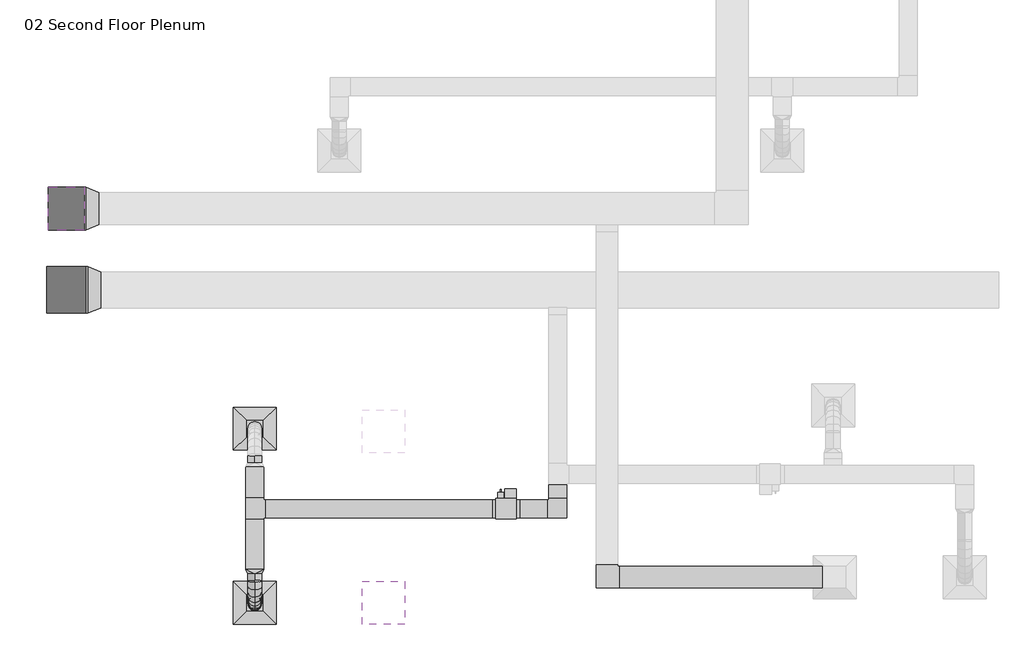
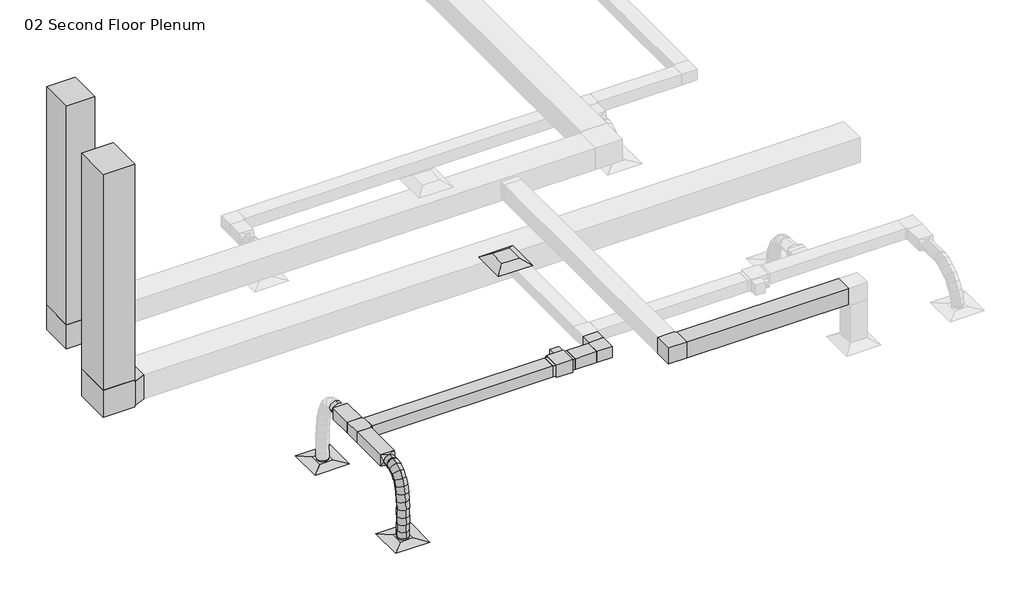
# One storey, part 1 of 12: 11 duct segments, 8 duct fittings, 3 air terminals, 1 proxy.
"""IFC4 building model written with IfcOpenShell, lengths in millimetres."""

from ifc_helpers import new_model, si_unit, point, frame, frame_2d, origin, place, context, project, spatial, polyline, circle_curve, ellipse_curve, trimmed, segment, composite_curve, outline, extrude, transform, mapped, element, save
from ifc_brep_helpers import plane_surface, cylinder_surface, advanced_brep
from components import exhaust_diffuser_hosted_workplane_based_exhaust_diffuser_7695a80a, supply_diffuser_rectangular_face_round_neck_d30_6390248a, supply_diffuser_rectangular_face_round_neck_d30_79c6f163, bcn6785_vav_d30_vav1_8c327968, rectangular_elbow_mitered_standard_f09b78ec, rectangular_elbow_mitered_standard_4ff1c4e8, rectangular_tee_standard_dbb21c28, rectangular_tee_standard_b2181136, rectangular_tee_standard_b316833c, rectangular_transition_angle_45_degree_4f42cd9e, rectangular_transition_angle_45_degree_104dd07f, rectangular_to_round_transition_angle_45_degree_e9430680

model = new_model("IFC4")

# Units and contexts
model_context = context("Model", 3, world=origin())
ifc_project = project(units=[si_unit("LENGTHUNIT", "METRE", prefix="MILLI")], contexts=[model_context])

# Site, building, storey
site = spatial("IfcSite", under=ifc_project)
building = spatial("IfcBuilding", under=site)
storey = spatial("IfcBuildingStorey", under=building, Name="02 Second Floor Plenum", Elevation=3048.0)

# Air terminals
placement = place(None, origin())
exhaust_diffuser_hosted_workplane_based_exhaust_diffuser_shape = exhaust_diffuser_hosted_workplane_based_exhaust_diffuser_7695a80a(model_context)
element("IfcAirTerminal", 1, ObjectType="Exhaust Diffuser - Hosted : Workplane-based Exhaust Diffuser", at=placement, inside=storey, context=model_context, shape_type="MappedRepresentation", body=[
    mapped(exhaust_diffuser_hosted_workplane_based_exhaust_diffuser_shape, transform((-12923.6292617, -5803.3078325, 7010.4), x_axis=(1.0, 0.0, 0.0), y_axis=(0.0, -1.0, 0.0), z_axis=(0.0, 0.0, -1.0))),
])
supply_diffuser_rectangular_face_round_neck_d30_shape = supply_diffuser_rectangular_face_round_neck_d30_6390248a(model_context)
element("IfcAirTerminal", 2, ObjectType="Supply Diffuser - Rectangular Face Round Neck : D30_SupplyDiffuser_24x24 8 Neck", at=placement, inside=storey, context=model_context, shape_type="MappedRepresentation", body=[
    mapped(supply_diffuser_rectangular_face_round_neck_d30_shape, transform((-14752.4292617, -5803.3078325, 2438.4), x_axis=(1.0, 0.0, 0.0), y_axis=(0.0, 1.0, 0.0), z_axis=(0.0, 0.0, 1.0))),
])
supply_diffuser_rectangular_face_round_neck_d30_2_shape = supply_diffuser_rectangular_face_round_neck_d30_79c6f163(model_context)
element("IfcAirTerminal", 3, ObjectType="Supply Diffuser - Rectangular Face Round Neck : D30_SupplyDiffuser_24x24 8 Neck", at=placement, inside=storey, context=model_context, shape_type="MappedRepresentation", body=[
    mapped(supply_diffuser_rectangular_face_round_neck_d30_2_shape, transform((-14752.4292617, -3326.8078325, 2406.65), x_axis=(1.0, 0.0, 0.0), y_axis=(0.0, 1.0, 0.0), z_axis=(0.0, 0.0, 1.0))),
])

# Proxy
bcn6785_vav_d30_vav1_shape = bcn6785_vav_d30_vav1_8c327968(model_context)
element("IfcBuildingElementProxy", 4, Name="BCN6785_VAV : D30_VAV1", ObjectType="BCN6785_VAV : D30_VAV1", at=placement, inside=storey, context=model_context, shape_type="MappedRepresentation", body=[
    mapped(bcn6785_vav_d30_vav1_shape, transform((-11037.5038818, -4465.0453325, 3536.95), x_axis=(-1.0, 0.0, 0.0), y_axis=(0.0, -1.0, 0.0), z_axis=(0.0, 0.0, 1.0))),
])

# Duct fittings
rectangular_elbow_mitered_standard_shape = rectangular_elbow_mitered_standard_f09b78ec(model_context)
element("IfcDuctFitting", 5, ObjectType="Rectangular Elbow - Mitered : Standard", at=placement, inside=storey, context=model_context, shape_type="MappedRepresentation", body=[
    mapped(rectangular_elbow_mitered_standard_shape, transform((-10449.2481813, -4465.0453325, 3657.6), x_axis=(1.0, 0.0, 0.0), y_axis=(0.0, 1.0, 0.0), z_axis=(0.0, 0.0, 1.0))),
])
rectangular_elbow_mitered_standard_2_shape = rectangular_elbow_mitered_standard_4ff1c4e8(model_context)
element("IfcDuctFitting", 6, ObjectType="Rectangular Elbow - Mitered : Standard", at=placement, inside=storey, context=model_context, shape_type="MappedRepresentation", body=[
    mapped(rectangular_elbow_mitered_standard_2_shape, transform((-9752.7160069, -5438.1828325, 4038.6), x_axis=(0.0, -1.0, 0.0), y_axis=(1.0, 0.0, 0.0), z_axis=(0.0, 0.0, 1.0))),
])
rectangular_tee_standard_shape = rectangular_tee_standard_dbb21c28(model_context)
element("IfcDuctFitting", 7, ObjectType="Rectangular Tee : Standard", at=placement, inside=storey, context=model_context, shape_type="MappedRepresentation", body=[
    mapped(rectangular_tee_standard_shape, transform((-17428.9542617, -1355.9265825, 3505.2), x_axis=(0.0, 0.0, -1.0), y_axis=(-1.0, 0.0, 0.0), z_axis=(0.0, 1.0, 0.0))),
])
rectangular_tee_standard_2_shape = rectangular_tee_standard_b2181136(model_context)
element("IfcDuctFitting", 8, ObjectType="Rectangular Tee : Standard", at=placement, inside=storey, context=model_context, shape_type="MappedRepresentation", body=[
    mapped(rectangular_tee_standard_2_shape, transform((-17428.9542617, -201.3156743, 4038.6), x_axis=(0.0, 0.0, -1.0), y_axis=(-1.0, 0.0, 0.0), z_axis=(0.0, 1.0, 0.0))),
])
rectangular_tee_standard_3_shape = rectangular_tee_standard_b316833c(model_context)
element("IfcDuctFitting", 9, ObjectType="Rectangular Tee : Standard", at=placement, inside=storey, context=model_context, shape_type="MappedRepresentation", body=[
    mapped(rectangular_tee_standard_3_shape, transform((-14752.2538818, -4465.0453325, 3657.6), x_axis=(0.0, 1.0, 0.0), y_axis=(-1.0, 0.0, 0.0), z_axis=(0.0, 0.0, 1.0))),
])
rectangular_transition_angle_45_degree_shape = rectangular_transition_angle_45_degree_4f42cd9e(model_context)
element("IfcDuctFitting", 10, ObjectType="Rectangular Transition - Angle : 45 Degree", at=placement, inside=storey, context=model_context, shape_type="MappedRepresentation", body=[
    mapped(rectangular_transition_angle_45_degree_shape, transform((-17124.1542617, -1355.9265825, 3505.2), x_axis=(1.0, 0.0, 0.0), y_axis=(0.0, 1.0, 0.0), z_axis=(0.0, 0.0, 1.0))),
])
rectangular_transition_angle_45_degree_2_shape = rectangular_transition_angle_45_degree_104dd07f(model_context)
element("IfcDuctFitting", 11, ObjectType="Rectangular Transition - Angle : 45 Degree", at=placement, inside=storey, context=model_context, shape_type="MappedRepresentation", body=[
    mapped(rectangular_transition_angle_45_degree_2_shape, transform((-17149.5542617, -201.3156743, 4038.6), x_axis=(1.0, 0.0, 0.0), y_axis=(0.0, 1.0, 0.0), z_axis=(0.0, 0.0, 1.0))),
])
rectangular_to_round_transition_angle_45_degree_shape = rectangular_to_round_transition_angle_45_degree_e9430680(model_context)
element("IfcDuctFitting", 12, ObjectType="Rectangular to Round Transition - Angle : 45 Degree", at=placement, inside=storey, context=model_context, shape_type="MappedRepresentation", body=[
    mapped(rectangular_to_round_transition_angle_45_degree_shape, transform((-14752.2538818, -5325.9690683, 3657.6), x_axis=(0.0, -1.0, 0.0), y_axis=(1.0, 0.0, 0.0), z_axis=(0.0, 0.0, 1.0))),
])

# Duct segments
element("IfcDuctSegment", 13, ObjectType="Flex - Round", at=placement, inside=storey, context=model_context, shape_type="AdvancedBrep", body=[
    advanced_brep(
    [(-14650.6538818, -5478.3690683, 3657.6), (-14752.2538818, -5478.3690683, 3556.0), (-14853.8538818, -5478.3690683, 3657.6), (-14752.2538818, -5478.3690683, 3759.2), (-14650.6538818, -5496.6935788, 3657.6), (-14752.2538818, -5485.3893855, 3556.0), (-14853.8538818, -5496.6884638, 3657.6), (-14752.2538818, -5507.9926572, 3759.2), (-14650.8292639, -5803.3286709, 2492.3712152), (-14752.450147, -5904.8994006, 2491.0662354), (-14854.0292595, -5803.2869942, 2492.3787848), (-14752.4083763, -5701.7162645, 2493.6837646), (-14650.6579668, -5576.831444, 3639.5481106), (-14752.2564828, -5536.4142073, 3544.5061271), (-14853.8579662, -5576.8134794, 3639.5510051), (-14752.2594502, -5617.2307161, 3734.5929886), (-14650.6691678, -5653.9379238, 3588.7607497), (-14752.2632578, -5583.052381, 3513.7871814), (-14853.8691653, -5653.9071217, 3588.7720998), (-14752.2750754, -5724.7926644, 3663.7456681), (-14650.6859031, -5712.2117413, 3510.2924421), (-14752.2747755, -5623.1582047, 3459.782892), (-14853.8858985, -5712.1738489, 3510.3133397), (-14752.2970261, -5801.2273855, 3560.8228898), (-14650.7065909, -5754.1771102, 3409.1975659), (-14752.2915531, -5657.1916463, 3377.7960859), (-14853.906585, -5754.1365349, 3409.2249266), (-14752.3216229, -5851.1219989, 3440.6264065), (-14650.7296502, -5782.3588265, 3290.5284588), (-14752.312061, -5682.2551943, 3272.2571313), (-14853.9296437, -5782.3174714, 3290.559103), (-14752.3472329, -5882.4211035, 3308.8304305), (-14650.7534998, -5799.2810485, 3159.3370513), (-14752.3343139, -5698.0445254, 3149.8485869), (-14853.9534932, -5799.2395872, 3159.3685188), (-14752.3726791, -5900.4761103, 3168.8569832), (-14650.7765587, -5807.4675687, 3020.6754081), (-14752.3564088, -5705.8888031, 3016.9837801), (-14853.9765522, -5807.4261775, 3020.7056893), (-14752.3967021, -5909.0049432, 3024.3973173), (-14650.7972456, -5809.4420322, 2879.5957894), (-14752.3765645, -5707.8125589, 2879.5273255), (-14853.9972396, -5809.4006848, 2879.6229344), (-14752.4179208, -5911.030158, 2879.6913983), (-14650.8139795, -5807.7280251, 2741.1506672), (-14752.3930776, -5706.1211638, 2742.9086345), (-14854.0139742, -5807.6866103, 2741.1723624), (-14752.4348761, -5909.2934715, 2739.4143951), (-14650.8251792, -5804.8490982, 2610.3928254), (-14752.4042755, -5703.2427021, 2612.1719207), (-14854.0251746, -5804.8074907, 2610.4057696), (-14752.4460784, -5906.4138868, 2608.6266743)],
    [
        (0, 1, circle_curve(frame((-14752.2538818, -5478.3690683, 3657.6), z_axis=(0.0, 1.0, 0.0), x_axis=(1.0, 0.0, 0.0)), 101.6)),
        (1, 2, circle_curve(frame((-14752.2538818, -5478.3690683, 3657.6), z_axis=(0.0, 1.0, 0.0), x_axis=(1.0, 0.0, 0.0)), 101.6)),
        (2, 3, circle_curve(frame((-14752.2538818, -5478.3690683, 3657.6), z_axis=(0.0, 1.0, 0.0), x_axis=(1.0, 0.0, 0.0)), 101.6)),
        (3, 0, circle_curve(frame((-14752.2538818, -5478.3690683, 3657.6), z_axis=(0.0, 1.0, 0.0), x_axis=(1.0, 0.0, 0.0)), 101.6)),
        (0, 4),
        (4, 5, ellipse_curve(frame((-14752.2538818, -5496.6910213, 3657.6), z_axis=(2.501801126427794e-05, 0.9938700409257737, 0.1105546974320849), x_axis=(-0.0002249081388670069, 0.11055470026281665, -0.9938700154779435)), 102.2266452, 101.6)),
        (5, 1),
        (5, 6, ellipse_curve(frame((-14752.2538818, -5496.6910213, 3657.6), z_axis=(2.501801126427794e-05, 0.9938700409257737, 0.1105546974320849), x_axis=(-0.0002249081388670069, 0.11055470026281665, -0.9938700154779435)), 102.2266452, 101.6)),
        (6, 2),
        (6, 7, ellipse_curve(frame((-14752.2538818, -5496.6910213, 3657.6), z_axis=(2.501801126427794e-05, 0.9938700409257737, 0.1105546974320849), x_axis=(-0.0002249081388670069, 0.11055470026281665, -0.9938700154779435)), 102.2266452, 101.6)),
        (7, 3),
        (7, 4, ellipse_curve(frame((-14752.2538818, -5496.6910213, 3657.6), z_axis=(2.501801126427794e-05, 0.9938700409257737, 0.1105546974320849), x_axis=(-0.0002249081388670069, 0.11055470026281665, -0.9938700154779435)), 102.2266452, 101.6)),
        (8, 9, circle_curve(frame((-14752.4292617, -5803.3078325, 2492.375), z_axis=(-3.46063637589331e-05, 0.012881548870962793, -0.999917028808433), x_axis=(0.9999999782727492, -0.00020510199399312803, -3.7251485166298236e-05)), 101.6)),
        (9, 10, circle_curve(frame((-14752.4292617, -5803.3078325, 2492.375), z_axis=(-3.46063637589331e-05, 0.012881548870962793, -0.999917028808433), x_axis=(0.9999999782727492, -0.00020510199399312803, -3.7251485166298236e-05)), 101.6)),
        (10, 11, circle_curve(frame((-14752.4292617, -5803.3078325, 2492.375), z_axis=(-3.46063637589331e-05, 0.012881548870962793, -0.999917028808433), x_axis=(0.9999999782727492, -0.00020510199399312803, -3.7251485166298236e-05)), 101.6)),
        (11, 8, circle_curve(frame((-14752.4292617, -5803.3078325, 2492.375), z_axis=(-3.46063637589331e-05, 0.012881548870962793, -0.999917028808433), x_axis=(0.9999999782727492, -0.00020510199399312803, -3.7251485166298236e-05)), 101.6)),
        (4, 12),
        (12, 13, ellipse_curve(frame((-14752.2579665, -5576.8224617, 3639.5495578), z_axis=(8.693369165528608e-05, 0.9202793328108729, 0.3912619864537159), x_axis=(-0.0001994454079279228, 0.3912619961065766, -0.9202793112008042)), 103.2767194, 101.6)),
        (13, 5),
        (13, 14, ellipse_curve(frame((-14752.2579665, -5576.8224617, 3639.5495578), z_axis=(8.693369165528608e-05, 0.9202793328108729, 0.3912619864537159), x_axis=(-0.0001994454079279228, 0.3912619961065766, -0.9202793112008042)), 103.2767194, 101.6)),
        (14, 6),
        (14, 15, ellipse_curve(frame((-14752.2579665, -5576.8224617, 3639.5495578), z_axis=(8.693369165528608e-05, 0.9202793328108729, 0.3912619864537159), x_axis=(-0.0001994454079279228, 0.3912619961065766, -0.9202793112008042)), 103.2767194, 101.6)),
        (15, 7),
        (15, 12, ellipse_curve(frame((-14752.2579665, -5576.8224617, 3639.5495578), z_axis=(8.693369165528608e-05, 0.9202793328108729, 0.3912619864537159), x_axis=(-0.0001994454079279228, 0.3912619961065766, -0.9202793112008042)), 103.2767194, 101.6)),
        (12, 16),
        (16, 17, ellipse_curve(frame((-14752.2691666, -5653.9225227, 3588.7664248), z_axis=(0.00014853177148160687, 0.7267401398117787, 0.6869124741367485), x_axis=(-0.00014349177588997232, 0.6869124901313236, -0.726740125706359)), 103.1720115, 101.6)),
        (17, 13),
        (17, 18, ellipse_curve(frame((-14752.2691666, -5653.9225227, 3588.7664248), z_axis=(0.00014853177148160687, 0.7267401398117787, 0.6869124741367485), x_axis=(-0.00014349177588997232, 0.6869124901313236, -0.726740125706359)), 103.1720115, 101.6)),
        (18, 14),
        (18, 19, ellipse_curve(frame((-14752.2691666, -5653.9225227, 3588.7664248), z_axis=(0.00014853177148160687, 0.7267401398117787, 0.6869124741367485), x_axis=(-0.00014349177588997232, 0.6869124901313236, -0.726740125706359)), 103.1720115, 101.6)),
        (19, 15),
        (19, 16, ellipse_curve(frame((-14752.2691666, -5653.9225227, 3588.7664248), z_axis=(0.00014853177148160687, 0.7267401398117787, 0.6869124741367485), x_axis=(-0.00014349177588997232, 0.6869124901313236, -0.726740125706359)), 103.1720115, 101.6)),
        (16, 20),
        (20, 21, ellipse_curve(frame((-14752.2859008, -5712.1927951, 3510.3028909), z_axis=(0.00018147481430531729, 0.49350835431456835, 0.869741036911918), x_axis=(-7.265698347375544e-05, 0.8697410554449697, -0.49350834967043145)), 102.3690808, 101.6)),
        (21, 17),
        (21, 22, ellipse_curve(frame((-14752.2859008, -5712.1927951, 3510.3028909), z_axis=(0.00018147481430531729, 0.49350835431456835, 0.869741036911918), x_axis=(-7.265698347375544e-05, 0.8697410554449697, -0.49350834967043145)), 102.3690808, 101.6)),
        (22, 18),
        (22, 23, ellipse_curve(frame((-14752.2859008, -5712.1927951, 3510.3028909), z_axis=(0.00018147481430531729, 0.49350835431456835, 0.869741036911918), x_axis=(-7.265698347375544e-05, 0.8697410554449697, -0.49350834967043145)), 102.3690808, 101.6)),
        (23, 19),
        (23, 20, ellipse_curve(frame((-14752.2859008, -5712.1927951, 3510.3028909), z_axis=(0.00018147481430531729, 0.49350835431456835, 0.869741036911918), x_axis=(-7.265698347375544e-05, 0.8697410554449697, -0.49350834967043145)), 102.3690808, 101.6)),
        (20, 24),
        (24, 25, ellipse_curve(frame((-14752.306588, -5754.1568226, 3409.2112462), z_axis=(0.00018963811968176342, 0.308211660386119, 0.9513177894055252), x_axis=(-3.548071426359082e-07, 0.9513178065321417, -0.30821166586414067)), 101.9272188, 101.6)),
        (25, 21),
        (25, 26, ellipse_curve(frame((-14752.306588, -5754.1568226, 3409.2112462), z_axis=(0.00018963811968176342, 0.308211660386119, 0.9513177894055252), x_axis=(-3.548071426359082e-07, 0.9513178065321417, -0.30821166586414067)), 101.9272188, 101.6)),
        (26, 22),
        (26, 27, ellipse_curve(frame((-14752.306588, -5754.1568226, 3409.2112462), z_axis=(0.00018963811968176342, 0.308211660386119, 0.9513177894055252), x_axis=(-3.548071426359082e-07, 0.9513178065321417, -0.30821166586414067)), 101.9272188, 101.6)),
        (27, 23),
        (27, 24, ellipse_curve(frame((-14752.306588, -5754.1568226, 3409.2112462), z_axis=(0.00018963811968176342, 0.308211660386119, 0.9513177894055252), x_axis=(-3.548071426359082e-07, 0.9513178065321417, -0.30821166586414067)), 101.9272188, 101.6)),
        (24, 28),
        (28, 29, ellipse_curve(frame((-14752.3296469, -5782.3381489, 3290.5437809), z_axis=(0.00018493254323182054, 0.17973924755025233, 0.9837142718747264), x_axis=(8.354970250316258e-05, 0.9837142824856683, -0.17973926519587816)), 101.7398627, 101.6)),
        (29, 25),
        (29, 30, ellipse_curve(frame((-14752.3296469, -5782.3381489, 3290.5437809), z_axis=(0.00018493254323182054, 0.17973924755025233, 0.9837142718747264), x_axis=(8.354970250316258e-05, 0.9837142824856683, -0.17973926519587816)), 101.7398627, 101.6)),
        (30, 26),
        (30, 31, ellipse_curve(frame((-14752.3296469, -5782.3381489, 3290.5437809), z_axis=(0.00018493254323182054, 0.17973924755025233, 0.9837142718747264), x_axis=(8.354970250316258e-05, 0.9837142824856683, -0.17973926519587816)), 101.7398627, 101.6)),
        (31, 27),
        (31, 28, ellipse_curve(frame((-14752.3296469, -5782.3381489, 3290.5437809), z_axis=(0.00018493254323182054, 0.17973924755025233, 0.9837142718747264), x_axis=(8.354970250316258e-05, 0.9837142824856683, -0.17973926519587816)), 101.7398627, 101.6)),
        (28, 32),
        (32, 33, ellipse_curve(frame((-14752.3534965, -5799.2603179, 3159.3527851), z_axis=(0.00017325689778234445, 0.0934890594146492, 0.9956202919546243), x_axis=(0.0002062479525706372, 0.9956202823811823, -0.09348909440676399)), 101.6610387, 101.6)),
        (33, 29),
        (33, 34, ellipse_curve(frame((-14752.3534965, -5799.2603179, 3159.3527851), z_axis=(0.00017325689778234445, 0.0934890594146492, 0.9956202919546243), x_axis=(0.0002062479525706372, 0.9956202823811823, -0.09348909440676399)), 101.6610387, 101.6)),
        (34, 30),
        (34, 35, ellipse_curve(frame((-14752.3534965, -5799.2603179, 3159.3527851), z_axis=(0.00017325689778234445, 0.0934890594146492, 0.9956202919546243), x_axis=(0.0002062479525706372, 0.9956202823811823, -0.09348909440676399)), 101.6610387, 101.6)),
        (35, 31),
        (35, 32, ellipse_curve(frame((-14752.3534965, -5799.2603179, 3159.3527851), z_axis=(0.00017325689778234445, 0.0934890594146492, 0.9956202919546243), x_axis=(0.0002062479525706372, 0.9956202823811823, -0.09348909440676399)), 101.6610387, 101.6)),
        (32, 36),
        (36, 37, ellipse_curve(frame((-14752.3765555, -5807.4468731, 3020.6905487), z_axis=(0.00015635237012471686, 0.036474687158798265, 0.9993345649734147), x_axis=(0.0004311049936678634, 0.9993344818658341, -0.036474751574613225)), 101.6256962, 101.6)),
        (37, 33),
        (37, 38, ellipse_curve(frame((-14752.3765555, -5807.4468731, 3020.6905487), z_axis=(0.00015635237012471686, 0.036474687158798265, 0.9993345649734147), x_axis=(0.0004311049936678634, 0.9993344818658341, -0.036474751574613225)), 101.6256962, 101.6)),
        (38, 34),
        (38, 39, ellipse_curve(frame((-14752.3765555, -5807.4468731, 3020.6905487), z_axis=(0.00015635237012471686, 0.036474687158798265, 0.9993345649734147), x_axis=(0.0004311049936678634, 0.9993344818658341, -0.036474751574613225)), 101.6256962, 101.6)),
        (39, 35),
        (39, 36, ellipse_curve(frame((-14752.3765555, -5807.4468731, 3020.6905487), z_axis=(0.00015635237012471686, 0.036474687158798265, 0.9993345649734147), x_axis=(0.0004311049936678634, 0.9993344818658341, -0.036474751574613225)), 101.6256962, 101.6)),
        (36, 40),
        (40, 41, ellipse_curve(frame((-14752.3972426, -5809.4213585, 2879.6093619), z_axis=(0.00013375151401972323, 0.0008073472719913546, 0.9999996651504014), x_axis=(0.0009766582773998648, 0.9999991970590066, -0.0008074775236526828)), 101.6088348, 101.6)),
        (41, 37),
        (41, 42, ellipse_curve(frame((-14752.3972426, -5809.4213585, 2879.6093619), z_axis=(0.00013375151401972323, 0.0008073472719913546, 0.9999996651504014), x_axis=(0.0009766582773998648, 0.9999991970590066, -0.0008074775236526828)), 101.6088348, 101.6)),
        (42, 38),
        (42, 43, ellipse_curve(frame((-14752.3972426, -5809.4213585, 2879.6093619), z_axis=(0.00013375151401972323, 0.0008073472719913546, 0.9999996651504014), x_axis=(0.0009766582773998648, 0.9999991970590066, -0.0008074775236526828)), 101.6088348, 101.6)),
        (43, 39),
        (43, 40, ellipse_curve(frame((-14752.3972426, -5809.4213585, 2879.6093619), z_axis=(0.00013375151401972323, 0.0008073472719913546, 0.9999996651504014), x_axis=(0.0009766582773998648, 0.9999991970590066, -0.0008074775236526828)), 101.6088348, 101.6)),
        (40, 44),
        (44, 45, ellipse_curve(frame((-14752.4139769, -5807.7073177, 2741.1615148), z_axis=(0.00010324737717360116, -0.01719588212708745, 0.9998521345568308), x_axis=(0.003656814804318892, 0.9998454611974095, 0.01719538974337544)), 101.6011787, 101.6)),
        (45, 41),
        (45, 46, ellipse_curve(frame((-14752.4139769, -5807.7073177, 2741.1615148), z_axis=(0.00010324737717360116, -0.01719588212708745, 0.9998521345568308), x_axis=(0.003656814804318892, 0.9998454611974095, 0.01719538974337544)), 101.6011787, 101.6)),
        (46, 42),
        (46, 47, ellipse_curve(frame((-14752.4139769, -5807.7073177, 2741.1615148), z_axis=(0.00010324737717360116, -0.01719588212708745, 0.9998521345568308), x_axis=(0.003656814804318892, 0.9998454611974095, 0.01719538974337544)), 101.6011787, 101.6)),
        (47, 43),
        (47, 44, ellipse_curve(frame((-14752.4139769, -5807.7073177, 2741.1615148), z_axis=(0.00010324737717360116, -0.01719588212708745, 0.9998521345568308), x_axis=(0.003656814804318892, 0.9998454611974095, 0.01719538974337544)), 101.6011787, 101.6)),
        (44, 48),
        (48, 49, ellipse_curve(frame((-14752.4251769, -5804.8282944, 2610.3992975), z_axis=(6.0119518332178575e-05, -0.017446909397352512, 0.9998477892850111), x_axis=(0.005587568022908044, -0.9998321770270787, -0.017446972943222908)), 101.6010591, 101.6)),
        (49, 45),
        (49, 50, ellipse_curve(frame((-14752.4251769, -5804.8282944, 2610.3992975), z_axis=(6.0119518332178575e-05, -0.017446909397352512, 0.9998477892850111), x_axis=(0.005587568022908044, -0.9998321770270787, -0.017446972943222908)), 101.6010591, 101.6)),
        (50, 46),
        (50, 51, ellipse_curve(frame((-14752.4251769, -5804.8282944, 2610.3992975), z_axis=(6.0119518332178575e-05, -0.017446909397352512, 0.9998477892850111), x_axis=(0.005587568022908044, -0.9998321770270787, -0.017446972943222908)), 101.6010591, 101.6)),
        (51, 47),
        (51, 48, ellipse_curve(frame((-14752.4251769, -5804.8282944, 2610.3992975), z_axis=(6.0119518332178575e-05, -0.017446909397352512, 0.9998477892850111), x_axis=(0.005587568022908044, -0.9998321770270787, -0.017446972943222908)), 101.6010591, 101.6)),
        (48, 8),
        (11, 49),
        (10, 50),
        (9, 51),
    ],
    [
        plane_surface(frame((-14853.8538818, -5478.3690683, 3657.6), z_axis=(0.0, 1.0, 0.0), x_axis=(0.0, 0.0, -1.0))),
        cylinder_surface(frame((-14752.2538818, -5478.3690683, 3657.6), z_axis=(0.0, 1.0, 0.0), x_axis=(1.0, 0.0, 0.0)), 101.6),
        plane_surface(frame((-14752.4292617, -5701.7162623, 2493.6837654), z_axis=(-3.460636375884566e-05, 0.01288154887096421, -0.999917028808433), x_axis=(0.9999999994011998, 4.4578356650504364e-07, -3.4603492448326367e-05))),
        cylinder_surface(frame((-14752.2538818, -5496.6910213, 3657.6), z_axis=(4.972930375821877e-05, 0.9755553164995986, 0.21975400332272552), x_axis=(0.9999999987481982, -4.972930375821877e-05, -5.531717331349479e-06)), 101.6),
        cylinder_surface(frame((-14752.2579665, -5576.8224617, 3639.5495578), z_axis=(0.0001213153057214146, 0.8351214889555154, 0.550065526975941), x_axis=(0.9999999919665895, -0.0001215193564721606, -3.605366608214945e-05)), 101.6),
        cylinder_surface(frame((-14752.2691666, -5653.9225227, 3588.7664248), z_axis=(0.0001712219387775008, 0.5962123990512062, 0.8028267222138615), x_axis=(0.999999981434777, -0.00017304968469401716, -8.475996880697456e-05)), 101.6),
        cylinder_surface(frame((-14752.2859008, -5712.1927951, 3510.3028909), z_axis=(0.00018900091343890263, 0.3833890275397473, 0.9235869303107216), x_axis=(0.9999999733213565, -0.00019511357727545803, -0.0001236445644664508)), 101.6),
        cylinder_surface(frame((-14752.306588, -5754.1568226, 3409.2112462), z_axis=(0.0001890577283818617, 0.23105537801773, 0.972940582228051), x_axis=(0.9999999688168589, -0.00020243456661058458, -0.00014624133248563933)), 101.6),
        cylinder_surface(frame((-14752.3296469, -5782.3381489, 3290.5437809), z_axis=(0.00018029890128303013, 0.12792893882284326, 0.9917833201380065), x_axis=(0.9999999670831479, -0.0002041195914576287, -0.00015546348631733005)), 101.6),
        cylinder_surface(frame((-14752.3534965, -5799.2603179, 3159.3527851), z_axis=(0.00016600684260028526, 0.05893691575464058, 0.9982616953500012), x_axis=(0.9999999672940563, -0.00020400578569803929, -0.00015425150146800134)), 101.6),
        cylinder_surface(frame((-14752.3765555, -5807.4468731, 3020.6905487), z_axis=(0.00014661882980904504, 0.01399401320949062, 0.9999020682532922), x_axis=(0.9999999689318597, -0.00020362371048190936, -0.00014378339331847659)), 101.6),
        cylinder_surface(frame((-14752.3972426, -5809.4213585, 2879.6093619), z_axis=(0.00012086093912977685, -0.012379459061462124, 0.999923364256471), x_axis=(0.9999999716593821, -0.00020360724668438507, -0.00012339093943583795)), 101.6),
        cylinder_surface(frame((-14752.4139769, -5807.7073177, 2741.1615148), z_axis=(8.563141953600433e-05, -0.022011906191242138, 0.999757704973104), x_axis=(0.9999999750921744, -0.00020417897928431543, -9.014762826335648e-05)), 101.6),
        cylinder_surface(frame((-14752.4251769, -5804.8282944, 2610.3992975), z_axis=(3.46063637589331e-05, -0.012881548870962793, 0.999917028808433), x_axis=(0.9999999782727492, -0.00020510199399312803, -3.7251485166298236e-05)), 101.6),
    ],
    [
        (0, [[1, 2, 3, 4]]),
        (1, [[-1, 5, 6, 7]]),
        (1, [[-2, -7, 8, 9]]),
        (1, [[-3, -9, 10, 11]]),
        (1, [[-4, -11, 12, -5]]),
        (2, [[13, 14, 15, 16]]),
        (3, [[-6, 17, 18, 19]]),
        (3, [[-8, -19, 20, 21]]),
        (3, [[-10, -21, 22, 23]]),
        (3, [[-12, -23, 24, -17]]),
        (4, [[-18, 25, 26, 27]]),
        (4, [[-20, -27, 28, 29]]),
        (4, [[-22, -29, 30, 31]]),
        (4, [[-24, -31, 32, -25]]),
        (5, [[-26, 33, 34, 35]]),
        (5, [[-28, -35, 36, 37]]),
        (5, [[-30, -37, 38, 39]]),
        (5, [[-32, -39, 40, -33]]),
        (6, [[-34, 41, 42, 43]]),
        (6, [[-36, -43, 44, 45]]),
        (6, [[-38, -45, 46, 47]]),
        (6, [[-40, -47, 48, -41]]),
        (7, [[-42, 49, 50, 51]]),
        (7, [[-44, -51, 52, 53]]),
        (7, [[-46, -53, 54, 55]]),
        (7, [[-48, -55, 56, -49]]),
        (8, [[-50, 57, 58, 59]]),
        (8, [[-52, -59, 60, 61]]),
        (8, [[-54, -61, 62, 63]]),
        (8, [[-56, -63, 64, -57]]),
        (9, [[-58, 65, 66, 67]]),
        (9, [[-60, -67, 68, 69]]),
        (9, [[-62, -69, 70, 71]]),
        (9, [[-64, -71, 72, -65]]),
        (10, [[-66, 73, 74, 75]]),
        (10, [[-68, -75, 76, 77]]),
        (10, [[-70, -77, 78, 79]]),
        (10, [[-72, -79, 80, -73]]),
        (11, [[-74, 81, 82, 83]]),
        (11, [[-76, -83, 84, 85]]),
        (11, [[-78, -85, 86, 87]]),
        (11, [[-80, -87, 88, -81]]),
        (12, [[-82, 89, 90, 91]]),
        (12, [[-84, -91, 92, 93]]),
        (12, [[-86, -93, 94, 95]]),
        (12, [[-88, -95, 96, -89]]),
        (13, [[-90, 97, -16, 98]]),
        (13, [[-92, -98, -15, 99]]),
        (13, [[-94, -99, -14, 100]]),
        (13, [[-96, -100, -13, -97]]),
    ],
),
])
element("IfcDuctSegment", 14, ObjectType="Mitered Elbows / Taps", at=placement, inside=storey, context=model_context, shape_type="SweptSolid", body=[
    extrude(outline(polyline([(-17149.5542617, -1686.1265825), (-17708.3542617, -1686.1265825), (-17708.3542617, -1025.7265825), (-17149.5542617, -1025.7265825), (-17149.5542617, -1686.1265825)])), frame((0.0, 0.0, 3759.2), z_axis=(0.0, 0.0, 1.0), x_axis=(1.0, 0.0, 0.0)), (0.0, 0.0, 1.0), 4064.0),
])
element("IfcDuctSegment", 15, ObjectType="Mitered Elbows / Taps", at=placement, inside=storey, context=model_context, shape_type="SweptSolid", body=[
    extrude(outline(polyline([(-17174.9542617, -506.1156743), (-17682.9542617, -506.1156743), (-17682.9542617, 103.4843257), (-17174.9542617, 103.4843257), (-17174.9542617, -506.1156743)])), frame((0.0, 0.0, 4267.2), z_axis=(0.0, 0.0, 1.0), x_axis=(1.0, 0.0, 0.0)), (0.0, 0.0, 1.0), 4114.8),
])
element("IfcDuctSegment", 16, ObjectType="Mitered Elbows / Tees", at=placement, inside=storey, context=model_context, shape_type="SweptSolid", body=[
    extrude(outline(polyline([(-10576.2481813, -4127.4664214), (-10322.2481813, -4127.4664214), (-10322.2481813, -4312.6453325), (-10576.2481813, -4312.6453325), (-10576.2481813, -4127.4664214)])), frame((0.0, 0.0, 3556.0), z_axis=(0.0, 0.0, 1.0), x_axis=(1.0, 0.0, 0.0)), (0.0, 0.0, 1.0), 203.2),
])
element("IfcDuctSegment", 17, ObjectType="Mitered Elbows / Tees", at=placement, inside=storey, context=model_context, shape_type="SweptSolid", body=[
    extrude(outline(polyline([(-10601.6481813, -4338.0453325), (-10601.6481813, -4592.0453325), (-10986.7038818, -4592.0453325), (-10986.7038818, -4338.0453325), (-10601.6481813, -4338.0453325)])), frame((0.0, 0.0, 3556.0), z_axis=(0.0, 0.0, 1.0), x_axis=(1.0, 0.0, 0.0)), (0.0, 0.0, 1.0), 203.2),
])
element("IfcDuctSegment", 18, ObjectType="Mitered Elbows / Tees", at=placement, inside=storey, context=model_context, shape_type="SweptSolid", body=[
    extrude(outline(polyline([(-11380.4038818, -4338.0453325), (-11380.4038818, -4592.0453325), (-14599.8538818, -4592.0453325), (-14599.8538818, -4338.0453325), (-11380.4038818, -4338.0453325)])), frame((0.0, 0.0, 3556.0), z_axis=(0.0, 0.0, 1.0), x_axis=(1.0, 0.0, 0.0)), (0.0, 0.0, 1.0), 203.2),
])
element("IfcDuctSegment", 19, ObjectType="Mitered Elbows / Tees", at=placement, inside=storey, context=model_context, shape_type="SweptSolid", body=[
    extrude(outline(polyline([(-14879.2538818, -4617.4453325), (-14625.2538818, -4617.4453325), (-14625.2538818, -5325.9690683), (-14879.2538818, -5325.9690683), (-14879.2538818, -4617.4453325)])), frame((0.0, 0.0, 3556.0), z_axis=(0.0, 0.0, 1.0), x_axis=(1.0, 0.0, 0.0)), (0.0, 0.0, 1.0), 203.2),
])
element("IfcDuctSegment", 20, ObjectType="Mitered Elbows / Tees", at=placement, inside=storey, context=model_context, shape_type="SweptSolid", body=[
    extrude(outline(polyline([(-14879.2538818, -3867.6465968), (-14625.2538818, -3867.6465968), (-14625.2538818, -4312.6453325), (-14879.2538818, -4312.6453325), (-14879.2538818, -3867.6465968)])), frame((0.0, 0.0, 3556.0), z_axis=(0.0, 0.0, 1.0), x_axis=(1.0, 0.0, 0.0)), (0.0, 0.0, 1.0), 203.2),
])
element("IfcDuctSegment", 21, ObjectType="Mitered Elbows / Tees", at=placement, inside=storey, context=model_context, shape_type="SweptSolid", body=[
    extrude(outline(polyline([(-9574.9160069, -5590.5828325), (-9574.9160069, -5285.7828325), (-6693.0685181, -5285.7828325), (-6693.0685181, -5590.5828325), (-9574.9160069, -5590.5828325)])), frame((0.0, 0.0, 3886.2), z_axis=(0.0, 0.0, 1.0), x_axis=(1.0, 0.0, 0.0)), (0.0, 0.0, 1.0), 304.8),
])
element("IfcDuctSegment", 22, ObjectType="Taps", at=placement, inside=storey, context=model_context, shape_type="SweptSolid", body=[
    extrude(outline(composite_curve([segment(trimmed(circle_curve(frame_2d((3657.6, -14752.2538818)), 101.6), [point((3657.6, -14853.8538818))], [point((3556.0, -14752.2538818))], False, "CARTESIAN"), True, "CONTINUOUS"), segment(trimmed(circle_curve(frame_2d((3657.6, -14752.2538818)), 101.6), [point((3556.0, -14752.2538818))], [point((3657.6, -14650.6538818))], False, "CARTESIAN"), True, "CONTINUOUS"), segment(trimmed(circle_curve(frame_2d((3657.6, -14752.2538818)), 101.6), [point((3657.6, -14650.6538818))], [point((3759.2, -14752.2538818))], False, "CARTESIAN"), True, "CONTINUOUS"), segment(trimmed(circle_curve(frame_2d((3657.6, -14752.2538818)), 101.6), [point((3759.2, -14752.2538818))], [point((3657.6, -14853.8538818))], False, "CARTESIAN"), True, "CONTINUOUS")], self_intersect=False)), frame((0.0, -5478.3690683, 0.0), z_axis=(0.0, 1.0, 0.0), x_axis=(0.0, 0.0, 1.0)), (0.0, 0.0, 1.0), 91.0789755),
])
element("IfcDuctSegment", 23, ObjectType="Taps", at=placement, inside=storey, context=model_context, shape_type="SweptSolid", body=[
    extrude(outline(composite_curve([segment(trimmed(circle_curve(frame_2d((3657.6, -14752.2538818)), 101.6), [point((3657.6, -14650.6538818))], [point((3759.2, -14752.2538818))], False, "CARTESIAN"), True, "CONTINUOUS"), segment(trimmed(circle_curve(frame_2d((3657.6, -14752.2538818)), 101.6), [point((3759.2, -14752.2538818))], [point((3657.6, -14853.8538818))], False, "CARTESIAN"), True, "CONTINUOUS"), segment(trimmed(circle_curve(frame_2d((3657.6, -14752.2538818)), 101.6), [point((3657.6, -14853.8538818))], [point((3556.0, -14752.2538818))], False, "CARTESIAN"), True, "CONTINUOUS"), segment(trimmed(circle_curve(frame_2d((3657.6, -14752.2538818)), 101.6), [point((3556.0, -14752.2538818))], [point((3657.6, -14650.6538818))], False, "CARTESIAN"), True, "CONTINUOUS")], self_intersect=False)), frame((0.0, -3806.3255723, 0.0), z_axis=(0.0, 1.0, 0.0), x_axis=(0.0, 0.0, 1.0)), (0.0, 0.0, 1.0), 91.0789755),
])

save(model, "model.ifc")
